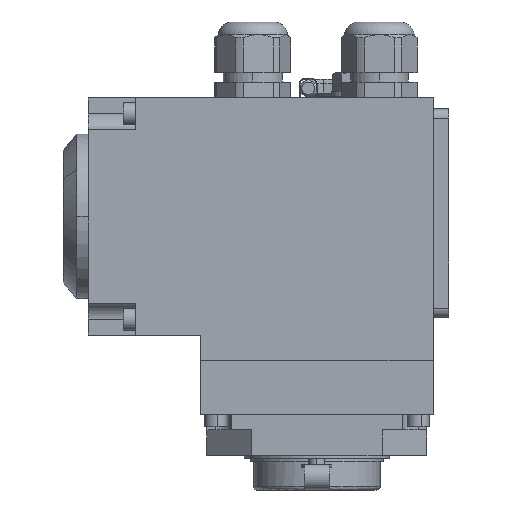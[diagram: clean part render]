
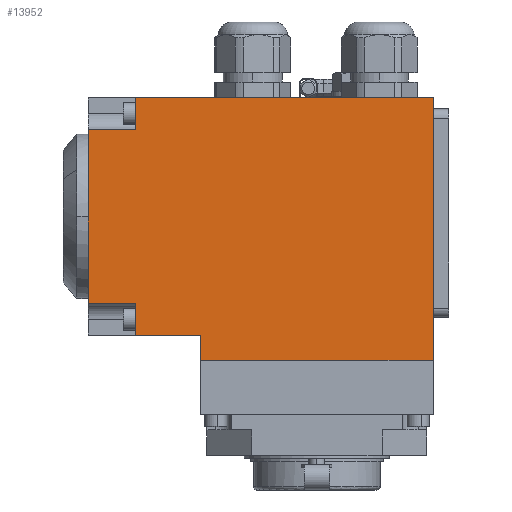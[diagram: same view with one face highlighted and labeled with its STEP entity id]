
A CAD part, left-side view. The second image highlights one B-rep face of the part: STEP entity #13952.
In plain terms, the highlighted planar face has unit normal (-1, 0, 0).
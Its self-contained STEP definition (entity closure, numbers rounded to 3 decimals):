
#11 = VERTEX_POINT ( 'NONE', #11486 ) ;
#823 = DIRECTION ( 'NONE',  ( 0., -1., 0. ) ) ;
#998 = VECTOR ( 'NONE', #11201, 1000. ) ;
#1050 = VERTEX_POINT ( 'NONE', #11155 ) ;
#1327 = VECTOR ( 'NONE', #10658, 1000. ) ;
#1447 = EDGE_CURVE ( 'NONE', #8559, #17528, #2166, .T. ) ;
#1489 = CARTESIAN_POINT ( 'NONE',  ( -80.75, 36.75, 0. ) ) ;
#1641 = DIRECTION ( 'NONE',  ( 0., 1., 0. ) ) ;
#1799 = EDGE_CURVE ( 'NONE', #1050, #17528, #6102, .T. ) ;
#1869 = EDGE_CURVE ( 'NONE', #18540, #8559, #7943, .T. ) ;
#2149 = VECTOR ( 'NONE', #2250, 1000. ) ;
#2166 = LINE ( 'NONE', #14151, #6565 ) ;
#2250 = DIRECTION ( 'NONE',  ( 0., 1., 0. ) ) ;
#2443 = CARTESIAN_POINT ( 'NONE',  ( -80.75, -36.75, 83. ) ) ;
#2805 = CARTESIAN_POINT ( 'NONE',  ( -80.75, 57.25, 18. ) ) ;
#2892 = LINE ( 'NONE', #18548, #998 ) ;
#3504 = ORIENTED_EDGE ( 'NONE', *, *, #8803, .T. ) ;
#3655 = DIRECTION ( 'NONE',  ( 0., 0., 1. ) ) ;
#3689 = CARTESIAN_POINT ( 'NONE',  ( -80.75, 72.25, 18. ) ) ;
#4412 = DIRECTION ( 'NONE',  ( 0., -1., 0. ) ) ;
#5289 = PLANE ( 'NONE',  #11242 ) ;
#5308 = CARTESIAN_POINT ( 'NONE',  ( -80.75, 57.25, 8. ) ) ;
#5629 = EDGE_CURVE ( 'NONE', #17230, #17568, #8787, .T. ) ;
#5688 = CARTESIAN_POINT ( 'NONE',  ( -80.75, 36.75, 83. ) ) ;
#5920 = FACE_OUTER_BOUND ( 'NONE', #11384, .T. ) ;
#6102 = LINE ( 'NONE', #3689, #18884 ) ;
#6565 = VECTOR ( 'NONE', #8202, 1000. ) ;
#6757 = ORIENTED_EDGE ( 'NONE', *, *, #1447, .F. ) ;
#6962 = LINE ( 'NONE', #17041, #19285 ) ;
#6976 = EDGE_CURVE ( 'NONE', #7344, #11, #15237, .T. ) ;
#7054 = LINE ( 'NONE', #1489, #14951 ) ;
#7188 = DIRECTION ( 'NONE',  ( 0., 0., -1. ) ) ;
#7344 = VERTEX_POINT ( 'NONE', #18881 ) ;
#7613 = CARTESIAN_POINT ( 'NONE',  ( -80.75, 36.75, 8. ) ) ;
#7855 = CARTESIAN_POINT ( 'NONE',  ( -80.75, -36.75, 83. ) ) ;
#7880 = ORIENTED_EDGE ( 'NONE', *, *, #1799, .T. ) ;
#7943 = LINE ( 'NONE', #15415, #2149 ) ;
#8016 = LINE ( 'NONE', #17741, #13342 ) ;
#8124 = ORIENTED_EDGE ( 'NONE', *, *, #1869, .F. ) ;
#8202 = DIRECTION ( 'NONE',  ( 0., 0., 1. ) ) ;
#8559 = VERTEX_POINT ( 'NONE', #5308 ) ;
#8787 = LINE ( 'NONE', #2443, #14808 ) ;
#8803 = EDGE_CURVE ( 'NONE', #14354, #17568, #7054, .T. ) ;
#8817 = ORIENTED_EDGE ( 'NONE', *, *, #15648, .T. ) ;
#9080 = EDGE_CURVE ( 'NONE', #17230, #11, #2892, .T. ) ;
#9917 = ORIENTED_EDGE ( 'NONE', *, *, #9080, .T. ) ;
#10658 = DIRECTION ( 'NONE',  ( 0., 0., 1. ) ) ;
#11155 = CARTESIAN_POINT ( 'NONE',  ( -80.75, 72.25, 18. ) ) ;
#11201 = DIRECTION ( 'NONE',  ( 0., 1., 0. ) ) ;
#11242 = AXIS2_PLACEMENT_3D ( 'NONE', #18677, #15618, #823 ) ;
#11355 = VERTEX_POINT ( 'NONE', #18800 ) ;
#11384 = EDGE_LOOP ( 'NONE', ( #8124, #8817, #3504, #17669, #9917, #15400, #15177, #16179, #7880, #6757 ) ) ;
#11486 = CARTESIAN_POINT ( 'NONE',  ( -80.75, 57.25, 83. ) ) ;
#13342 = VECTOR ( 'NONE', #1641, 1000. ) ;
#13583 = EDGE_CURVE ( 'NONE', #7344, #11355, #8016, .T. ) ;
#13952 = ADVANCED_FACE ( 'NONE', ( #5920 ), #5289, .T. ) ;
#14151 = CARTESIAN_POINT ( 'NONE',  ( -80.75, 57.25, 8. ) ) ;
#14354 = VERTEX_POINT ( 'NONE', #18543 ) ;
#14653 = CARTESIAN_POINT ( 'NONE',  ( -80.75, -36.75, 0. ) ) ;
#14808 = VECTOR ( 'NONE', #17270, 1000. ) ;
#14921 = VECTOR ( 'NONE', #7188, 1000. ) ;
#14951 = VECTOR ( 'NONE', #4412, 1000. ) ;
#14990 = CARTESIAN_POINT ( 'NONE',  ( -80.75, 57.25, 8. ) ) ;
#15140 = LINE ( 'NONE', #5688, #14921 ) ;
#15177 = ORIENTED_EDGE ( 'NONE', *, *, #13583, .T. ) ;
#15237 = LINE ( 'NONE', #14990, #1327 ) ;
#15400 = ORIENTED_EDGE ( 'NONE', *, *, #6976, .F. ) ;
#15415 = CARTESIAN_POINT ( 'NONE',  ( -80.75, 21.25, 8. ) ) ;
#15618 = DIRECTION ( 'NONE',  ( -1., 0., 0. ) ) ;
#15648 = EDGE_CURVE ( 'NONE', #18540, #14354, #15140, .T. ) ;
#16179 = ORIENTED_EDGE ( 'NONE', *, *, #17315, .F. ) ;
#17041 = CARTESIAN_POINT ( 'NONE',  ( -80.75, 72.25, 8. ) ) ;
#17230 = VERTEX_POINT ( 'NONE', #7855 ) ;
#17270 = DIRECTION ( 'NONE',  ( 0., 0., -1. ) ) ;
#17315 = EDGE_CURVE ( 'NONE', #1050, #11355, #6962, .T. ) ;
#17528 = VERTEX_POINT ( 'NONE', #2805 ) ;
#17568 = VERTEX_POINT ( 'NONE', #14653 ) ;
#17669 = ORIENTED_EDGE ( 'NONE', *, *, #5629, .F. ) ;
#17741 = CARTESIAN_POINT ( 'NONE',  ( -80.75, 72.25, 73. ) ) ;
#18423 = DIRECTION ( 'NONE',  ( 0., -1., 0. ) ) ;
#18540 = VERTEX_POINT ( 'NONE', #7613 ) ;
#18543 = CARTESIAN_POINT ( 'NONE',  ( -80.75, 36.75, 0. ) ) ;
#18548 = CARTESIAN_POINT ( 'NONE',  ( -80.75, 21.25, 83. ) ) ;
#18677 = CARTESIAN_POINT ( 'NONE',  ( -80.75, 21.25, 8. ) ) ;
#18800 = CARTESIAN_POINT ( 'NONE',  ( -80.75, 72.25, 73. ) ) ;
#18881 = CARTESIAN_POINT ( 'NONE',  ( -80.75, 57.25, 73. ) ) ;
#18884 = VECTOR ( 'NONE', #18423, 1000. ) ;
#19285 = VECTOR ( 'NONE', #3655, 1000. ) ;
